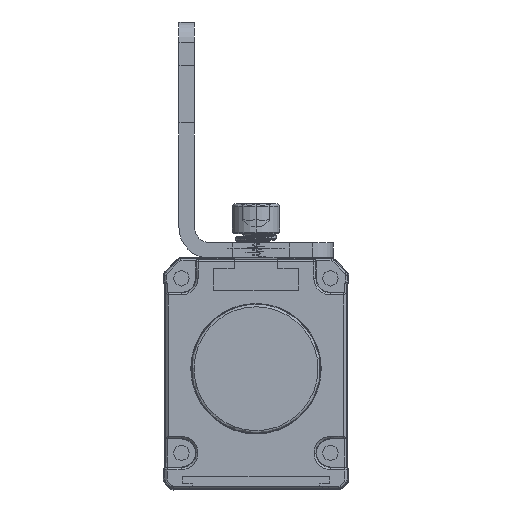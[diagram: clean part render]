
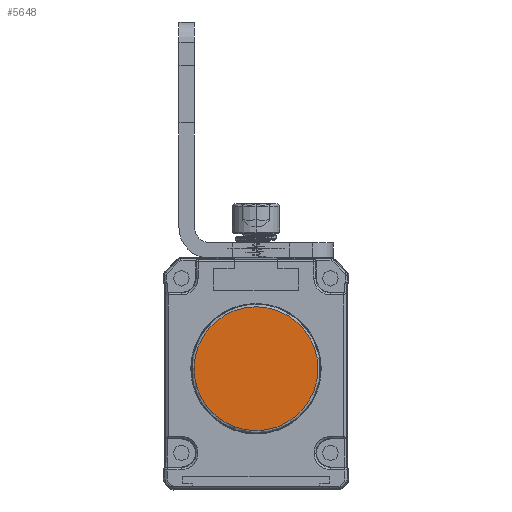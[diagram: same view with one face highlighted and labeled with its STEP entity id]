
A CAD part, front view. The second image highlights one B-rep face of the part: STEP entity #5648.
In plain terms, the highlighted planar face has unit normal (0, -1, 0) as drawn and (0, 1, 0) by its records, which use the part's own axes.
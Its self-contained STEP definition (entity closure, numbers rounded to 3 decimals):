
#3001=CARTESIAN_POINT('',(298.137,272.441,-93.947));
#3002=DIRECTION('',(0.,1.,0.));
#3003=DIRECTION('',(-1.,0.,-0.007));
#3004=AXIS2_PLACEMENT_3D('',#3001,#3002,#3003);
#3006=CARTESIAN_POINT('',(298.137,272.441,-93.947));
#3007=DIRECTION('',(0.,1.,0.));
#3008=DIRECTION('',(1.,0.,-0.001));
#3009=AXIS2_PLACEMENT_3D('',#3006,#3007,#3008);
#3011=CARTESIAN_POINT('',(298.137,272.441,-93.947));
#3012=DIRECTION('',(0.,1.,0.));
#3013=DIRECTION('',(1.,0.,0.007));
#3014=AXIS2_PLACEMENT_3D('',#3011,#3012,#3013);
#3016=CARTESIAN_POINT('',(298.137,272.441,-93.947));
#3017=DIRECTION('',(0.,1.,0.));
#3018=DIRECTION('',(-1.,0.,0.001));
#3019=AXIS2_PLACEMENT_3D('',#3016,#3017,#3018);
#3099=CARTESIAN_POINT('',(286.082,272.441,-94.027));
#3100=CARTESIAN_POINT('',(286.082,272.441,-93.939));
#3101=VERTEX_POINT('',#3099);
#3102=VERTEX_POINT('',#3100);
#3166=CARTESIAN_POINT('',(310.193,272.441,-93.955));
#3167=VERTEX_POINT('',#3166);
#3269=CARTESIAN_POINT('',(310.193,272.441,-93.867));
#3270=VERTEX_POINT('',#3269);
#5637=CARTESIAN_POINT('',(298.533,272.441,-94.753));
#5638=DIRECTION('',(0.,1.,0.));
#5639=DIRECTION('',(1.,0.,-0.001));
#5640=AXIS2_PLACEMENT_3D('',#5637,#5638,#5639);
#5641=PLANE('',#5640);
#5642=ORIENTED_EDGE('',*,*,#5614,.F.);
#5643=ORIENTED_EDGE('',*,*,#5628,.F.);
#5644=ORIENTED_EDGE('',*,*,#5626,.F.);
#5645=ORIENTED_EDGE('',*,*,#5616,.F.);
#5646=EDGE_LOOP('',(#5642,#5643,#5644,#5645));
#5647=FACE_OUTER_BOUND('',#5646,.F.);
#5648=ADVANCED_FACE('',(#5647),#5641,.T.);
#3005=CIRCLE('',#3004,12.056);
#3010=CIRCLE('',#3009,12.056);
#3015=CIRCLE('',#3014,12.056);
#3020=CIRCLE('',#3019,12.056);
#5614=EDGE_CURVE('',#3101,#3102,#3005,.T.);
#5616=EDGE_CURVE('',#3102,#3270,#3020,.T.);
#5626=EDGE_CURVE('',#3270,#3167,#3015,.T.);
#5628=EDGE_CURVE('',#3167,#3101,#3010,.T.);
